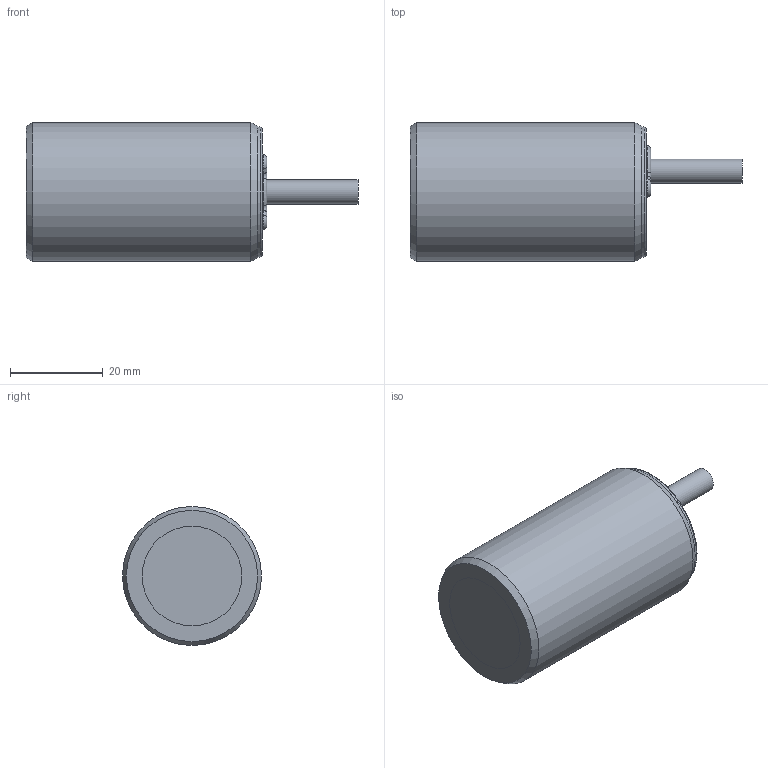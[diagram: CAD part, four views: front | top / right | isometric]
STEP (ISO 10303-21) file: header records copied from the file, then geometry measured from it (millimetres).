
FILE_DESCRIPTION(/* description */ (''),/* implementation_level */ '2;1');
FILE_NAME(/* name */ 'V:\AUTOCAD\_tegninger\Stepfiles - 3D\ICS\ICS30xxxxxxxxE1\ICS30L50F15xxB2E1.stp',/* time_stamp */ '2020-08-04T13:36:29+02:00',/* author */ ('TVB'),/* organization */ (''),/* preprocessor_version */ 'ST-DEVELOPER v18',/* originating_system */ 'Autodesk Inventor 2020',/* authorisation */ '');
FILE_SCHEMA (('AUTOMOTIVE_DESIGN { 1 0 10303 214 3 1 1 }'));
Length unit declared in the file: millimetre
Products named in the file (1): ICS30L50F15xxB2E1
Bounding box: 71.65 x 30 x 30 mm (x, y, z)
Volume: 36376.1 mm3; surface area: 6408 mm2
Topology: 1 solids, 1 shells, 36 faces, 81 edges, 51 vertices
Faces by surface type: torus 13, cylinder 10, plane 6, bspline 4, cone 3
Full cylindrical faces by diameter (mm): 5.2 x1, 30 x1
Entity records: 1142 total; most frequent: DIRECTION 211, CARTESIAN_POINT 201, ORIENTED_EDGE 162, AXIS2_PLACEMENT_3D 97, EDGE_CURVE 81, CIRCLE 64, VERTEX_POINT 51, EDGE_LOOP 40
